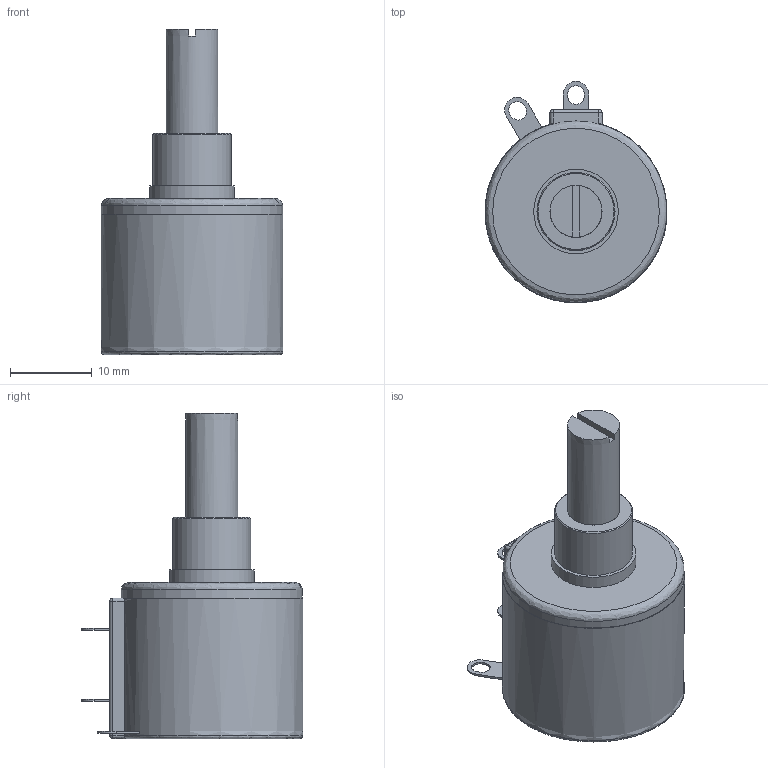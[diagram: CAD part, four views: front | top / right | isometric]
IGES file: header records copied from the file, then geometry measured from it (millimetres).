
Global section: file name: No Iges File Name specified; native system: AutoDesk Inventor R5.0; preprocessor: AutoDesk Inventor Iges Exporter R5.0; author: No Author specified; organization: No Organization specified; date: 20040116.191613; units: inch
Bounding box: 22.17 x 26.96 x 39.67 mm (x, y, z)
Surface area: 2692.2 mm2 (no closed solid volume)
Topology: 0 solids, 0 shells, 60 faces, 271 edges, 261 vertices
Faces by surface type: plane 31, revolution 29
